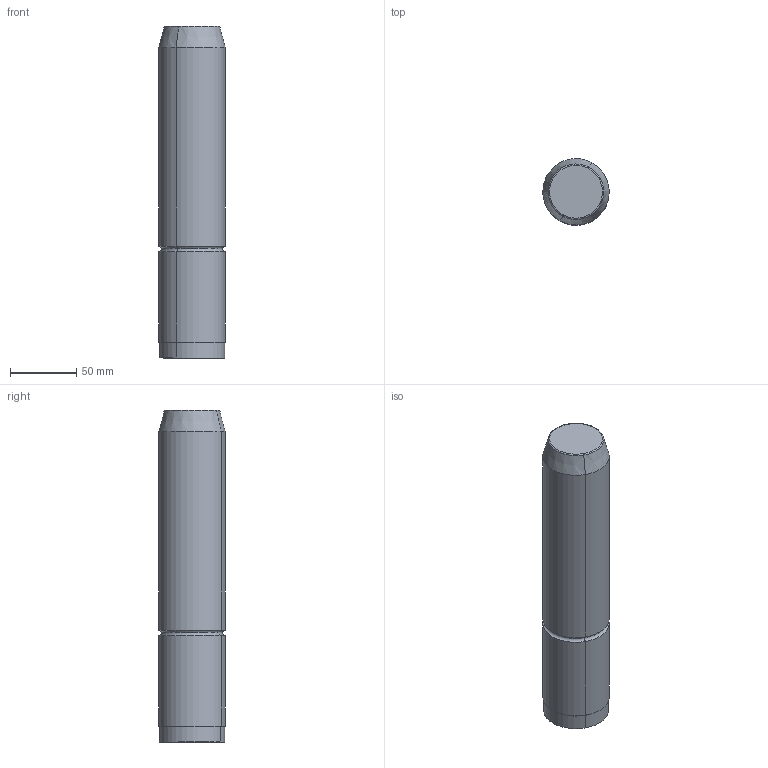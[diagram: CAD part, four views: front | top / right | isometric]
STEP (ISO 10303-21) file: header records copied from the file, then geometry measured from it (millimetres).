
FILE_DESCRIPTION(('CATIA V5 STEP Exchange'),'2;1');
FILE_NAME('C:\Users\Utente\Desktop\IO LAVORO\3D X SITO CF\X SITO\M104\M104-50x250.stp','2020-12-26T21:24:38+00:00',('none'),('none'),'CATIA Version 5 Release 20 GA (IN-10)','CATIA V5 STEP AP203','none');
FILE_SCHEMA(('CONFIG_CONTROL_DESIGN'));
Length unit declared in the file: millimetre
Products named in the file (1): M104-50x250
Bounding box: 49.99 x 49.99 x 250 mm (x, y, z)
Volume: 483797.4 mm3; surface area: 42700.6 mm2
Topology: 1 solids, 1 shells, 17 faces, 32 edges, 18 vertices
Faces by surface type: cylinder 6, torus 6, plane 3, cone 2
Entity records: 438 total; most frequent: CARTESIAN_POINT 66, ORIENTED_EDGE 64, DIRECTION 62, AXIS2_PLACEMENT_3D 40, EDGE_CURVE 32, CIRCLE 24, EDGE_LOOP 18, VERTEX_POINT 18
